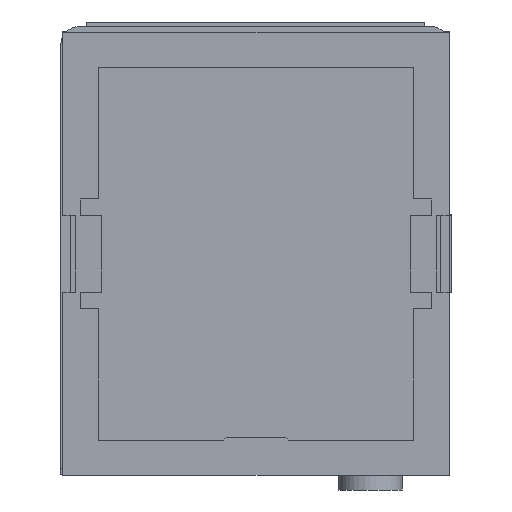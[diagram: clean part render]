
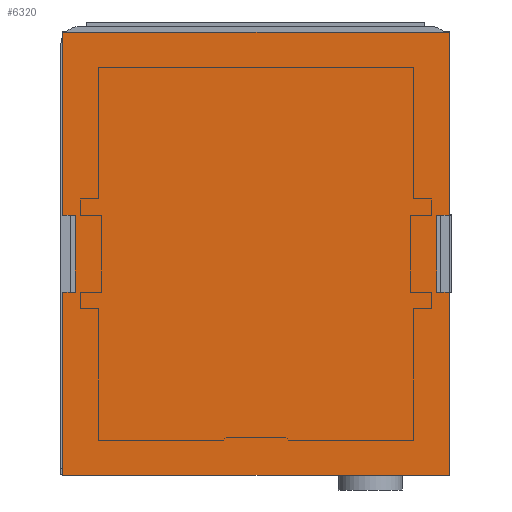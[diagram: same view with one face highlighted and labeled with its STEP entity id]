
A CAD part, left-side view. The second image highlights one B-rep face of the part: STEP entity #6320.
In plain terms, the highlighted planar face has unit normal (-1, 0, 0) as drawn and (0, 0, 1) by its records, which use the part's own axes.
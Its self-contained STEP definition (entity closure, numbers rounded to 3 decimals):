
#4671=DIRECTION('',(0.,-1.,0.));
#4672=VECTOR('',#4671,1.4);
#4673=CARTESIAN_POINT('',(4.2,21.15,0.));
#4674=LINE('',#4673,#4672);
#4678=DIRECTION('',(-1.,0.,0.));
#4679=VECTOR('',#4678,20.05);
#4680=CARTESIAN_POINT('',(24.25,21.15,0.));
#4681=LINE('',#4680,#4679);
#4685=DIRECTION('',(0.,1.,0.));
#4686=VECTOR('',#4685,42.3);
#4687=CARTESIAN_POINT('',(24.25,-21.15,0.));
#4688=LINE('',#4687,#4686);
#4692=DIRECTION('',(1.,0.,0.));
#4693=VECTOR('',#4692,20.05);
#4694=CARTESIAN_POINT('',(4.2,-21.15,0.));
#4695=LINE('',#4694,#4693);
#4699=DIRECTION('',(0.,1.,0.));
#4700=VECTOR('',#4699,1.4);
#4701=CARTESIAN_POINT('',(4.2,-21.15,0.));
#4702=LINE('',#4701,#4700);
#4706=DIRECTION('',(1.,0.,0.));
#4707=VECTOR('',#4706,8.4);
#4708=CARTESIAN_POINT('',(-4.2,-19.75,0.));
#4709=LINE('',#4708,#4707);
#4713=DIRECTION('',(0.,1.,0.));
#4714=VECTOR('',#4713,1.4);
#4715=CARTESIAN_POINT('',(-4.2,-21.15,0.));
#4716=LINE('',#4715,#4714);
#4720=DIRECTION('',(1.,0.,0.));
#4721=VECTOR('',#4720,20.05);
#4722=CARTESIAN_POINT('',(-24.25,-21.15,0.));
#4723=LINE('',#4722,#4721);
#4727=DIRECTION('',(0.,-1.,0.));
#4728=VECTOR('',#4727,42.3);
#4729=CARTESIAN_POINT('',(-24.25,21.15,0.));
#4730=LINE('',#4729,#4728);
#4734=DIRECTION('',(-1.,0.,0.));
#4735=VECTOR('',#4734,20.05);
#4736=CARTESIAN_POINT('',(-4.2,21.15,0.));
#4737=LINE('',#4736,#4735);
#4741=DIRECTION('',(0.,-1.,0.));
#4742=VECTOR('',#4741,1.4);
#4743=CARTESIAN_POINT('',(-4.2,21.15,0.));
#4744=LINE('',#4743,#4742);
#4748=DIRECTION('',(-1.,0.,0.));
#4749=VECTOR('',#4748,8.4);
#4750=CARTESIAN_POINT('',(4.2,19.75,0.));
#4751=LINE('',#4750,#4749);
#6033=CARTESIAN_POINT('',(-24.25,21.15,0.));
#6034=CARTESIAN_POINT('',(-24.25,-21.15,0.));
#6035=VERTEX_POINT('',#6033);
#6036=VERTEX_POINT('',#6034);
#6037=CARTESIAN_POINT('',(24.25,-21.15,0.));
#6038=CARTESIAN_POINT('',(24.25,21.15,0.));
#6039=VERTEX_POINT('',#6037);
#6040=VERTEX_POINT('',#6038);
#6201=CARTESIAN_POINT('',(-4.2,-21.15,0.));
#6202=VERTEX_POINT('',#6201);
#6203=CARTESIAN_POINT('',(4.2,-21.15,0.));
#6204=VERTEX_POINT('',#6203);
#6205=CARTESIAN_POINT('',(4.2,21.15,0.));
#6206=VERTEX_POINT('',#6205);
#6207=CARTESIAN_POINT('',(-4.2,21.15,0.));
#6208=VERTEX_POINT('',#6207);
#6209=CARTESIAN_POINT('',(4.2,19.75,0.));
#6210=VERTEX_POINT('',#6209);
#6211=CARTESIAN_POINT('',(-4.2,19.75,0.));
#6212=VERTEX_POINT('',#6211);
#6213=CARTESIAN_POINT('',(-4.2,-19.75,0.));
#6214=VERTEX_POINT('',#6213);
#6215=CARTESIAN_POINT('',(4.2,-19.75,0.));
#6216=VERTEX_POINT('',#6215);
#6289=CARTESIAN_POINT('',(0.,0.,0.));
#6290=DIRECTION('',(0.,0.,1.));
#6291=DIRECTION('',(1.,0.,0.));
#6292=AXIS2_PLACEMENT_3D('',#6289,#6290,#6291);
#6293=PLANE('',#6292);
#6295=ORIENTED_EDGE('',*,*,#6294,.F.);
#6297=ORIENTED_EDGE('',*,*,#6296,.F.);
#6299=ORIENTED_EDGE('',*,*,#6298,.F.);
#6301=ORIENTED_EDGE('',*,*,#6300,.F.);
#6303=ORIENTED_EDGE('',*,*,#6302,.T.);
#6305=ORIENTED_EDGE('',*,*,#6304,.F.);
#6307=ORIENTED_EDGE('',*,*,#6306,.F.);
#6309=ORIENTED_EDGE('',*,*,#6308,.F.);
#6311=ORIENTED_EDGE('',*,*,#6310,.F.);
#6313=ORIENTED_EDGE('',*,*,#6312,.F.);
#6315=ORIENTED_EDGE('',*,*,#6314,.T.);
#6317=ORIENTED_EDGE('',*,*,#6316,.F.);
#6318=EDGE_LOOP('',(#6295,#6297,#6299,#6301,#6303,#6305,#6307,#6309,#6311,#6313,
#6315,#6317));
#6319=FACE_OUTER_BOUND('',#6318,.F.);
#6294=EDGE_CURVE('',#6206,#6210,#4674,.T.);
#6296=EDGE_CURVE('',#6040,#6206,#4681,.T.);
#6298=EDGE_CURVE('',#6039,#6040,#4688,.T.);
#6300=EDGE_CURVE('',#6204,#6039,#4695,.T.);
#6302=EDGE_CURVE('',#6204,#6216,#4702,.T.);
#6304=EDGE_CURVE('',#6214,#6216,#4709,.T.);
#6306=EDGE_CURVE('',#6202,#6214,#4716,.T.);
#6308=EDGE_CURVE('',#6036,#6202,#4723,.T.);
#6310=EDGE_CURVE('',#6035,#6036,#4730,.T.);
#6312=EDGE_CURVE('',#6208,#6035,#4737,.T.);
#6314=EDGE_CURVE('',#6208,#6212,#4744,.T.);
#6316=EDGE_CURVE('',#6210,#6212,#4751,.T.);
#6320=ADVANCED_FACE('',(#6319),#6293,.T.);
